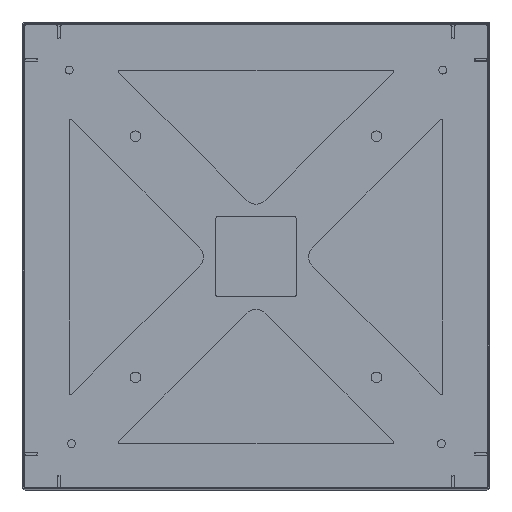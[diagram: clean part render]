
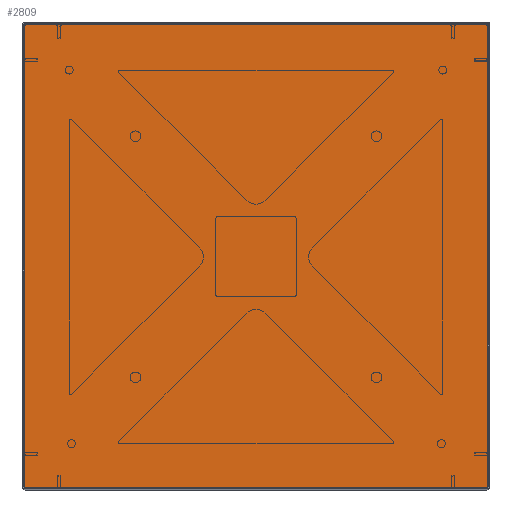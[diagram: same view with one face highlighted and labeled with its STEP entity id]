
A CAD part, top view. The second image highlights one B-rep face of the part: STEP entity #2809.
In plain terms, the highlighted planar face has unit normal (0, 0, 1) as drawn and (0, 1, 0) by its records, which use the part's own axes.
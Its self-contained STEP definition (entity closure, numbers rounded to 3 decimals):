
#169=CIRCLE('',#3026,1.);
#171=CIRCLE('',#3030,1.);
#173=CIRCLE('',#3034,1.);
#175=CIRCLE('',#3038,1.);
#414=ORIENTED_EDGE('',*,*,#1138,.F.);
#415=ORIENTED_EDGE('',*,*,#1159,.F.);
#416=ORIENTED_EDGE('',*,*,#1156,.F.);
#417=ORIENTED_EDGE('',*,*,#1153,.F.);
#418=ORIENTED_EDGE('',*,*,#1150,.F.);
#419=ORIENTED_EDGE('',*,*,#1147,.F.);
#420=ORIENTED_EDGE('',*,*,#1144,.F.);
#421=ORIENTED_EDGE('',*,*,#1141,.F.);
#1138=EDGE_CURVE('',#1522,#1523,#169,.T.);
#1141=EDGE_CURVE('',#1523,#1525,#1803,.T.);
#1144=EDGE_CURVE('',#1525,#1527,#171,.T.);
#1147=EDGE_CURVE('',#1527,#1529,#1807,.T.);
#1150=EDGE_CURVE('',#1529,#1531,#173,.T.);
#1153=EDGE_CURVE('',#1531,#1533,#1811,.T.);
#1156=EDGE_CURVE('',#1533,#1535,#175,.T.);
#1159=EDGE_CURVE('',#1535,#1522,#1815,.T.);
#1522=VERTEX_POINT('',#4257);
#1523=VERTEX_POINT('',#4259);
#1525=VERTEX_POINT('',#4265);
#1527=VERTEX_POINT('',#4271);
#1529=VERTEX_POINT('',#4277);
#1531=VERTEX_POINT('',#4283);
#1533=VERTEX_POINT('',#4289);
#1535=VERTEX_POINT('',#4295);
#1803=LINE('',#4264,#2079);
#1807=LINE('',#4276,#2083);
#1811=LINE('',#4288,#2087);
#1815=LINE('',#4299,#2091);
#2079=VECTOR('',#3401,1000.);
#2083=VECTOR('',#3413,1000.);
#2087=VECTOR('',#3425,1000.);
#2091=VECTOR('',#3437,1000.);
#2342=EDGE_LOOP('',(#414,#415,#416,#417,#418,#419,#420,#421));
#2532=FACE_BOUND('',#2342,.T.);
#2712=PLANE('',#3040);
#2809=ADVANCED_FACE('',(#2532),#2712,.F.);
#3026=AXIS2_PLACEMENT_3D('',#4258,#3395,#3396);
#3030=AXIS2_PLACEMENT_3D('',#4270,#3407,#3408);
#3034=AXIS2_PLACEMENT_3D('',#4282,#3419,#3420);
#3038=AXIS2_PLACEMENT_3D('',#4294,#3431,#3432);
#3040=AXIS2_PLACEMENT_3D('',#4300,#3438,#3439);
#3395=DIRECTION('',(0.,-1.,0.));
#3396=DIRECTION('',(1.,0.,0.));
#3401=DIRECTION('',(1.,0.,0.));
#3407=DIRECTION('',(0.,-1.,0.));
#3408=DIRECTION('',(-1.,0.,0.));
#3413=DIRECTION('',(0.,0.,1.));
#3419=DIRECTION('',(0.,-1.,0.));
#3420=DIRECTION('',(-1.,0.,0.));
#3425=DIRECTION('',(-1.,0.,0.));
#3431=DIRECTION('',(0.,-1.,0.));
#3432=DIRECTION('',(1.,0.,0.));
#3437=DIRECTION('',(0.,0.,-1.));
#3438=DIRECTION('',(0.,-1.,0.));
#3439=DIRECTION('',(0.,0.,-1.));
#4257=CARTESIAN_POINT('',(-173.8,1.5,-172.8));
#4258=CARTESIAN_POINT('',(-172.8,1.5,-172.8));
#4259=CARTESIAN_POINT('',(-172.8,1.5,-173.8));
#4264=CARTESIAN_POINT('',(-173.8,1.5,-173.8));
#4265=CARTESIAN_POINT('',(172.8,1.5,-173.8));
#4270=CARTESIAN_POINT('',(172.8,1.5,-172.8));
#4271=CARTESIAN_POINT('',(173.8,1.5,-172.8));
#4276=CARTESIAN_POINT('',(173.8,1.5,-173.8));
#4277=CARTESIAN_POINT('',(173.8,1.5,172.8));
#4282=CARTESIAN_POINT('',(172.8,1.5,172.8));
#4283=CARTESIAN_POINT('',(172.8,1.5,173.8));
#4288=CARTESIAN_POINT('',(173.8,1.5,173.8));
#4289=CARTESIAN_POINT('',(-172.8,1.5,173.8));
#4294=CARTESIAN_POINT('',(-172.8,1.5,172.8));
#4295=CARTESIAN_POINT('',(-173.8,1.5,172.8));
#4299=CARTESIAN_POINT('',(-173.8,1.5,173.8));
#4300=CARTESIAN_POINT('',(-172.8,1.5,-172.8));
